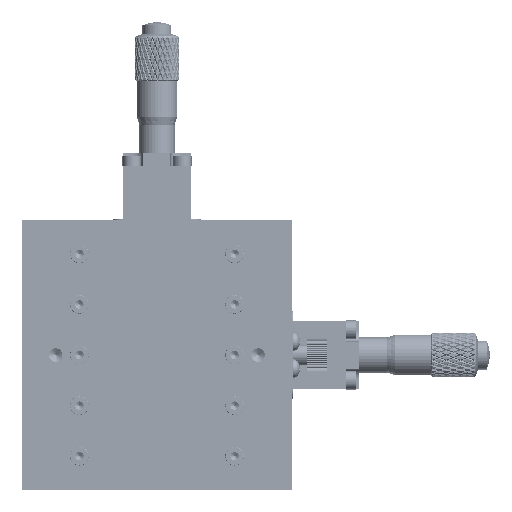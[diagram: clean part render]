
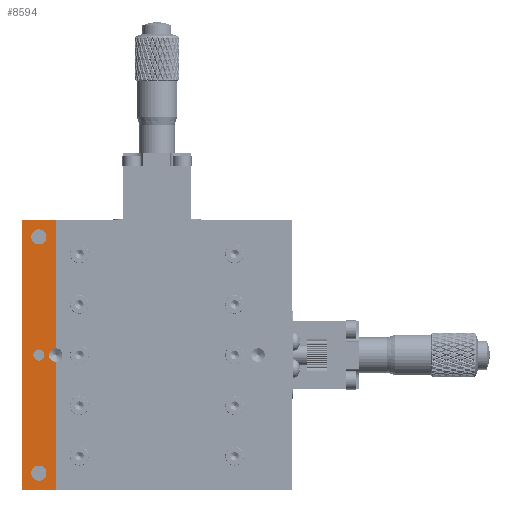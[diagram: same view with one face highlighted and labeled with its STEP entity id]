
A CAD part, front view. The second image highlights one B-rep face of the part: STEP entity #8594.
In plain terms, the highlighted planar face has unit normal (0, -1, 0).
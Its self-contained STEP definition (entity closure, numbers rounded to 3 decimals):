
#947 = CARTESIAN_POINT ( 'NONE',  ( -30., 0., 40. ) ) ;
#3401 = CARTESIAN_POINT ( 'NONE',  ( -30., 0., 0. ) ) ;
#4134 = EDGE_CURVE ( 'NONE', #19516, #25782, #7883, .T. ) ;
#4222 = DIRECTION ( 'NONE',  ( 1., 0., 0. ) ) ;
#5432 = VERTEX_POINT ( 'NONE', #28160 ) ;
#6900 = VECTOR ( 'NONE', #35753, 1000. ) ;
#7190 = CIRCLE ( 'NONE', #24505, 1.65 ) ;
#7883 = LINE ( 'NONE', #30355, #36325 ) ;
#8023 = DIRECTION ( 'NONE',  ( 0., 1., 0. ) ) ;
#8594 = ADVANCED_FACE ( 'NONE', ( #43981, #13765, #28899, #60919 ), #20795, .F. ) ;
#9016 = ORIENTED_EDGE ( 'NONE', *, *, #56744, .T. ) ;
#9181 = DIRECTION ( 'NONE',  ( 0., 0., -1. ) ) ;
#9423 = DIRECTION ( 'NONE',  ( 0., 0., -1. ) ) ;
#9673 = DIRECTION ( 'NONE',  ( 0., 1., 0. ) ) ;
#11038 = AXIS2_PLACEMENT_3D ( 'NONE', #3401, #43193, #9181 ) ;
#11141 = ORIENTED_EDGE ( 'NONE', *, *, #27165, .T. ) ;
#11843 = DIRECTION ( 'NONE',  ( 0., 1., 0. ) ) ;
#13359 = DIRECTION ( 'NONE',  ( 0., 1., 0. ) ) ;
#13609 = AXIS2_PLACEMENT_3D ( 'NONE', #47397, #13359, #53085 ) ;
#13765 = FACE_BOUND ( 'NONE', #21578, .T. ) ;
#15784 = ORIENTED_EDGE ( 'NONE', *, *, #50633, .T. ) ;
#18576 = EDGE_CURVE ( 'NONE', #41528, #59633, #53231, .T. ) ;
#18832 = VERTEX_POINT ( 'NONE', #51216 ) ;
#19394 = DIRECTION ( 'NONE',  ( 0., 0., -1. ) ) ;
#19516 = VERTEX_POINT ( 'NONE', #71528 ) ;
#20255 = CIRCLE ( 'NONE', #13609, 2.25 ) ;
#20795 = PLANE ( 'NONE',  #69041 ) ;
#21578 = EDGE_LOOP ( 'NONE', ( #66938, #55861 ) ) ;
#22438 = ORIENTED_EDGE ( 'NONE', *, *, #22869, .F. ) ;
#22483 = EDGE_LOOP ( 'NONE', ( #15784, #63693 ) ) ;
#22869 = EDGE_CURVE ( 'NONE', #5432, #19516, #71435, .T. ) ;
#23600 = AXIS2_PLACEMENT_3D ( 'NONE', #45876, #11843, #51581 ) ;
#23807 = CARTESIAN_POINT ( 'NONE',  ( -35., 0., 37.25 ) ) ;
#23820 = LINE ( 'NONE', #30020, #6900 ) ;
#24113 = CARTESIAN_POINT ( 'NONE',  ( -35., 0., 0. ) ) ;
#24219 = EDGE_CURVE ( 'NONE', #25782, #66501, #31370, .T. ) ;
#24505 = AXIS2_PLACEMENT_3D ( 'NONE', #24113, #63865, #29826 ) ;
#24679 = AXIS2_PLACEMENT_3D ( 'NONE', #59727, #25671, #65399 ) ;
#25671 = DIRECTION ( 'NONE',  ( 0., 1., 0. ) ) ;
#25782 = VERTEX_POINT ( 'NONE', #66371 ) ;
#26294 = DIRECTION ( 'NONE',  ( 0., 1., 0. ) ) ;
#26969 = VERTEX_POINT ( 'NONE', #71072 ) ;
#27165 = EDGE_CURVE ( 'NONE', #67739, #18832, #7190, .T. ) ;
#28160 = CARTESIAN_POINT ( 'NONE',  ( -40., 0., 40. ) ) ;
#28597 = ORIENTED_EDGE ( 'NONE', *, *, #29454, .T. ) ;
#28899 = FACE_BOUND ( 'NONE', #22483, .T. ) ;
#29105 = CIRCLE ( 'NONE', #24679, 2.25 ) ;
#29454 = EDGE_CURVE ( 'NONE', #26969, #41807, #23820, .T. ) ;
#29826 = DIRECTION ( 'NONE',  ( 0., 0., 1. ) ) ;
#30020 = CARTESIAN_POINT ( 'NONE',  ( -40., 0., -40. ) ) ;
#30355 = CARTESIAN_POINT ( 'NONE',  ( -30., 0., 40. ) ) ;
#31370 = CIRCLE ( 'NONE', #11038, 2. ) ;
#32029 = VECTOR ( 'NONE', #9423, 1000. ) ;
#35574 = EDGE_CURVE ( 'NONE', #18832, #67739, #47074, .T. ) ;
#35753 = DIRECTION ( 'NONE',  ( 1., 0., 0. ) ) ;
#36325 = VECTOR ( 'NONE', #19394, 1000. ) ;
#37183 = CARTESIAN_POINT ( 'NONE',  ( -35., 0., -1.65 ) ) ;
#40291 = EDGE_LOOP ( 'NONE', ( #51908, #54677, #43716, #22438, #9016, #28597 ) ) ;
#40754 = DIRECTION ( 'NONE',  ( 0., 0., -1. ) ) ;
#41399 = EDGE_CURVE ( 'NONE', #66501, #41807, #68095, .T. ) ;
#41528 = VERTEX_POINT ( 'NONE', #43003 ) ;
#41807 = VERTEX_POINT ( 'NONE', #47893 ) ;
#42084 = CARTESIAN_POINT ( 'NONE',  ( -35., 0., -35. ) ) ;
#42897 = VERTEX_POINT ( 'NONE', #23807 ) ;
#43003 = CARTESIAN_POINT ( 'NONE',  ( -35., 0., -37.25 ) ) ;
#43193 = DIRECTION ( 'NONE',  ( 0., -1., 0. ) ) ;
#43438 = CARTESIAN_POINT ( 'NONE',  ( -40., 0., 40. ) ) ;
#43708 = CARTESIAN_POINT ( 'NONE',  ( -35., 0., 0. ) ) ;
#43716 = ORIENTED_EDGE ( 'NONE', *, *, #4134, .F. ) ;
#43981 = FACE_BOUND ( 'NONE', #52824, .T. ) ;
#44659 = EDGE_CURVE ( 'NONE', #46879, #42897, #20255, .T. ) ;
#45390 = LINE ( 'NONE', #43438, #32029 ) ;
#45876 = CARTESIAN_POINT ( 'NONE',  ( -35., 0., 35. ) ) ;
#46700 = EDGE_CURVE ( 'NONE', #59633, #41528, #29105, .T. ) ;
#46879 = VERTEX_POINT ( 'NONE', #50978 ) ;
#47074 = CIRCLE ( 'NONE', #52246, 1.65 ) ;
#47397 = CARTESIAN_POINT ( 'NONE',  ( -35., 0., 35. ) ) ;
#47782 = DIRECTION ( 'NONE',  ( 0., 0., 1. ) ) ;
#47893 = CARTESIAN_POINT ( 'NONE',  ( -30., 0., -40. ) ) ;
#49126 = AXIS2_PLACEMENT_3D ( 'NONE', #42084, #8023, #47782 ) ;
#49433 = DIRECTION ( 'NONE',  ( 0., 0., 1. ) ) ;
#49587 = ORIENTED_EDGE ( 'NONE', *, *, #35574, .T. ) ;
#50559 = CIRCLE ( 'NONE', #23600, 2.25 ) ;
#50633 = EDGE_CURVE ( 'NONE', #42897, #46879, #50559, .T. ) ;
#50978 = CARTESIAN_POINT ( 'NONE',  ( -35., 0., 32.75 ) ) ;
#51216 = CARTESIAN_POINT ( 'NONE',  ( -35., 0., 1.65 ) ) ;
#51581 = DIRECTION ( 'NONE',  ( 0., 0., 1. ) ) ;
#51908 = ORIENTED_EDGE ( 'NONE', *, *, #41399, .F. ) ;
#52246 = AXIS2_PLACEMENT_3D ( 'NONE', #43708, #9673, #49433 ) ;
#52824 = EDGE_LOOP ( 'NONE', ( #49587, #11141 ) ) ;
#53021 = VECTOR ( 'NONE', #40754, 1000. ) ;
#53085 = DIRECTION ( 'NONE',  ( 0., 0., 1. ) ) ;
#53231 = CIRCLE ( 'NONE', #49126, 2.25 ) ;
#54677 = ORIENTED_EDGE ( 'NONE', *, *, #24219, .F. ) ;
#55861 = ORIENTED_EDGE ( 'NONE', *, *, #18576, .T. ) ;
#56350 = VECTOR ( 'NONE', #4222, 1000. ) ;
#56744 = EDGE_CURVE ( 'NONE', #5432, #26969, #45390, .T. ) ;
#57309 = CARTESIAN_POINT ( 'NONE',  ( -30., 0., -2. ) ) ;
#59633 = VERTEX_POINT ( 'NONE', #61318 ) ;
#59727 = CARTESIAN_POINT ( 'NONE',  ( -35., 0., -35. ) ) ;
#60919 = FACE_OUTER_BOUND ( 'NONE', #40291, .T. ) ;
#61318 = CARTESIAN_POINT ( 'NONE',  ( -35., 0., -32.75 ) ) ;
#63693 = ORIENTED_EDGE ( 'NONE', *, *, #44659, .T. ) ;
#63865 = DIRECTION ( 'NONE',  ( 0., 1., 0. ) ) ;
#65399 = DIRECTION ( 'NONE',  ( 0., 0., 1. ) ) ;
#66371 = CARTESIAN_POINT ( 'NONE',  ( -30., 0., 2. ) ) ;
#66501 = VERTEX_POINT ( 'NONE', #57309 ) ;
#66723 = CARTESIAN_POINT ( 'NONE',  ( -40., 0., 40. ) ) ;
#66938 = ORIENTED_EDGE ( 'NONE', *, *, #46700, .T. ) ;
#67739 = VERTEX_POINT ( 'NONE', #37183 ) ;
#68095 = LINE ( 'NONE', #947, #53021 ) ;
#69041 = AXIS2_PLACEMENT_3D ( 'NONE', #66723, #26294, #72391 ) ;
#71072 = CARTESIAN_POINT ( 'NONE',  ( -40., 0., -40. ) ) ;
#71435 = LINE ( 'NONE', #72261, #56350 ) ;
#71528 = CARTESIAN_POINT ( 'NONE',  ( -30., 0., 40. ) ) ;
#72261 = CARTESIAN_POINT ( 'NONE',  ( -40., 0., 40. ) ) ;
#72391 = DIRECTION ( 'NONE',  ( 0., 0., 1. ) ) ;
